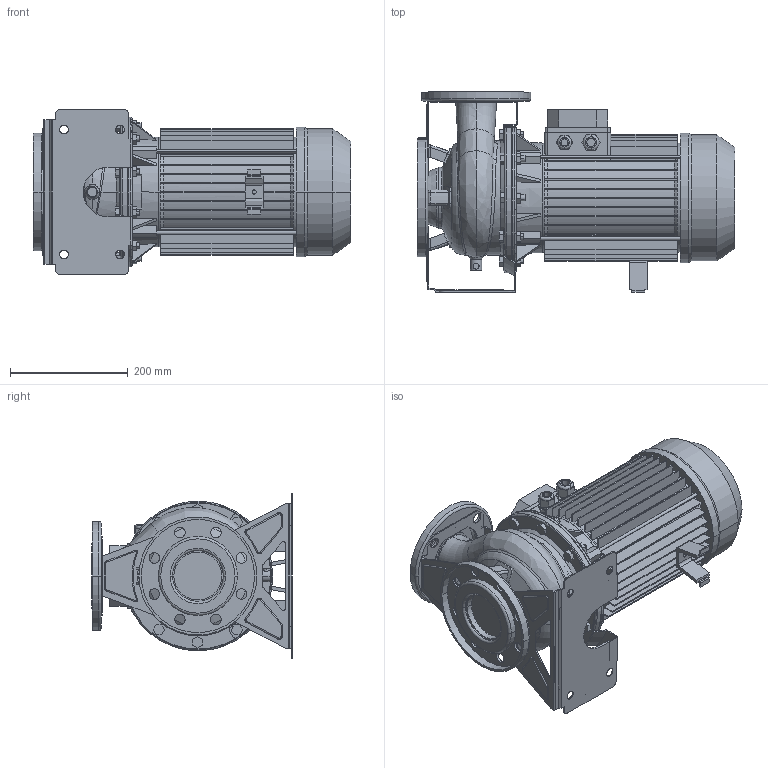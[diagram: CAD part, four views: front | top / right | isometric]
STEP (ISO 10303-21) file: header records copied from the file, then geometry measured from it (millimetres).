
FILE_DESCRIPTION((''),'2;1');
FILE_NAME('3M_65-125_5_5_IE2_ASM','2011-04-22T',('Utente'),('"Ebara Pumps Europe +39.444.706811"'),'PRO/ENGINEER BY PARAMETRIC TECHNOLOGY CORPORATION, 2009360','PRO/ENGINEER BY PARAMETRIC TECHNOLOGY CORPORATION, 2009360','');
FILE_SCHEMA(('AUTOMOTIVE_DESIGN { 1 0 10303 214 1 1 1 1 }'));
Length unit declared in the file: millimetre
Products named in the file (11): CORPO_65-125; ASP_65-125; FLANGIA_DIN_80_8_FORI; MAND_65-125; FLANGIA_DIN_65; BASE_3M_65-125; CORPO_SALDATO_65-125_ASM; SUPPORTO_3M_190_112; MEC_112X160_180_IE2; SOSTEGNO_72008; 3M_65-125_5_5_IE2_ASM
Assembly tree (10 placements, depth 3):
  3M_65-125_5_5_IE2_ASM
    CORPO_SALDATO_65-125_ASM
      CORPO_65-125
      ASP_65-125
      FLANGIA_DIN_80_8_FORI
      MAND_65-125
      FLANGIA_DIN_65
      BASE_3M_65-125
    SUPPORTO_3M_190_112
    MEC_112X160_180_IE2
    SOSTEGNO_72008
Bounding box: 539 x 340 x 280 mm (x, y, z)
Volume: 11109133 mm3; surface area: 1499454 mm2
Topology: 12 solids, 12 shells, 1149 faces, 2931 edges, 1866 vertices
Faces by surface type: plane 632, cylinder 310, cone 98, torus 62, bspline 33, sphere 14
Entity records: 46258 total; most frequent: CARTESIAN_POINT 11720, DIRECTION 5958, ORIENTED_EDGE 5862, EDGE_CURVE 2931, AXIS2_PLACEMENT_3D 2157, VERTEX_POINT 1866, VECTOR 1644, LINE 1644
